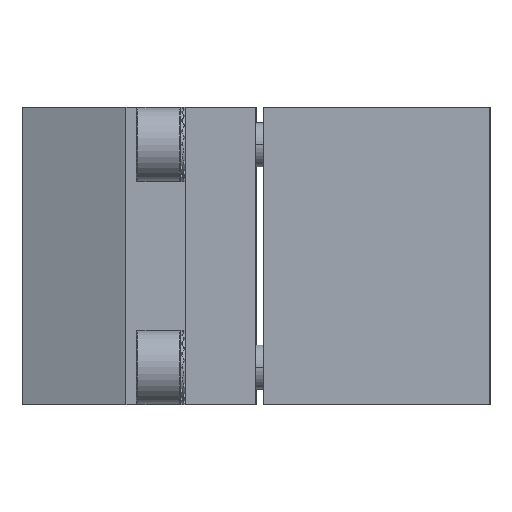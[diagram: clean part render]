
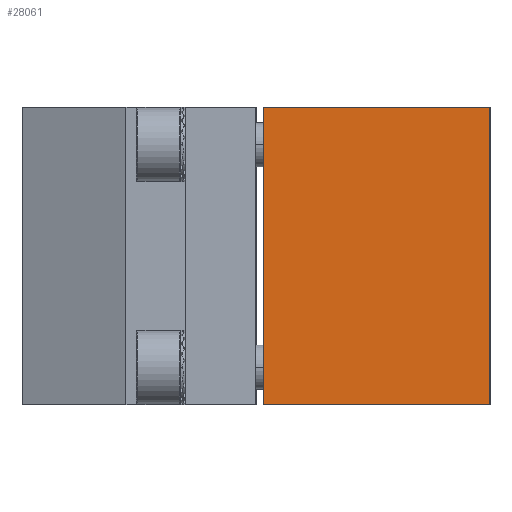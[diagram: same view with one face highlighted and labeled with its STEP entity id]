
A CAD part, left-side view. The second image highlights one B-rep face of the part: STEP entity #28061.
In plain terms, the highlighted planar face has unit normal (-1, 0, 0).
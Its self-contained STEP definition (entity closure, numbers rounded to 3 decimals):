
#691 = ORIENTED_EDGE ( 'NONE', *, *, #19272, .F. ) ;
#2341 = ORIENTED_EDGE ( 'NONE', *, *, #10838, .T. ) ;
#2870 = EDGE_CURVE ( 'NONE', #7446, #35286, #34229, .T. ) ;
#4995 = FACE_OUTER_BOUND ( 'NONE', #13628, .T. ) ;
#5168 = VECTOR ( 'NONE', #7211, 1000. ) ;
#6800 = CARTESIAN_POINT ( 'NONE',  ( -47.248, 3.004, 6.066 ) ) ;
#6825 = EDGE_CURVE ( 'NONE', #26640, #23426, #15556, .T. ) ;
#7211 = DIRECTION ( 'NONE',  ( 0., 1., 0. ) ) ;
#7446 = VERTEX_POINT ( 'NONE', #30443 ) ;
#8453 = CARTESIAN_POINT ( 'NONE',  ( -47.248, 33.504, 6.066 ) ) ;
#9458 = CARTESIAN_POINT ( 'NONE',  ( -47.248, 3.004, -13.934 ) ) ;
#10838 = EDGE_CURVE ( 'NONE', #7446, #26640, #28242, .T. ) ;
#11676 = VECTOR ( 'NONE', #31634, 1000. ) ;
#12296 = DIRECTION ( 'NONE',  ( 0., 0., 1. ) ) ;
#12323 = LINE ( 'NONE', #34666, #11676 ) ;
#12616 = CARTESIAN_POINT ( 'NONE',  ( -47.248, 33.504, -33.934 ) ) ;
#13443 = AXIS2_PLACEMENT_3D ( 'NONE', #16074, #21116, #13553 ) ;
#13553 = DIRECTION ( 'NONE',  ( 0., 0., -1. ) ) ;
#13628 = EDGE_LOOP ( 'NONE', ( #14877, #2341, #33098, #691 ) ) ;
#14877 = ORIENTED_EDGE ( 'NONE', *, *, #2870, .F. ) ;
#15048 = CARTESIAN_POINT ( 'NONE',  ( -47.248, 18.254, 6.066 ) ) ;
#15275 = CARTESIAN_POINT ( 'NONE',  ( -47.248, 18.254, -33.934 ) ) ;
#15556 = LINE ( 'NONE', #15048, #31932 ) ;
#16074 = CARTESIAN_POINT ( 'NONE',  ( -47.248, 3.004, 6.066 ) ) ;
#18591 = PLANE ( 'NONE',  #13443 ) ;
#19272 = EDGE_CURVE ( 'NONE', #35286, #23426, #12323, .T. ) ;
#21116 = DIRECTION ( 'NONE',  ( 1., 0., 0. ) ) ;
#23426 = VERTEX_POINT ( 'NONE', #8453 ) ;
#26640 = VERTEX_POINT ( 'NONE', #6800 ) ;
#28061 = ADVANCED_FACE ( 'NONE', ( #4995 ), #18591, .F. ) ;
#28242 = LINE ( 'NONE', #9458, #35036 ) ;
#30443 = CARTESIAN_POINT ( 'NONE',  ( -47.248, 3.004, -33.934 ) ) ;
#31634 = DIRECTION ( 'NONE',  ( 0., 0., 1. ) ) ;
#31835 = DIRECTION ( 'NONE',  ( 0., 1., 0. ) ) ;
#31932 = VECTOR ( 'NONE', #31835, 1000. ) ;
#33098 = ORIENTED_EDGE ( 'NONE', *, *, #6825, .T. ) ;
#34229 = LINE ( 'NONE', #15275, #5168 ) ;
#34666 = CARTESIAN_POINT ( 'NONE',  ( -47.248, 33.504, -13.934 ) ) ;
#35036 = VECTOR ( 'NONE', #12296, 1000. ) ;
#35286 = VERTEX_POINT ( 'NONE', #12616 ) ;
